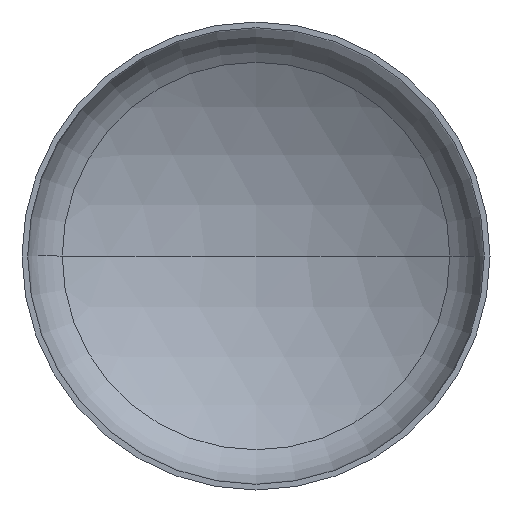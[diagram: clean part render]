
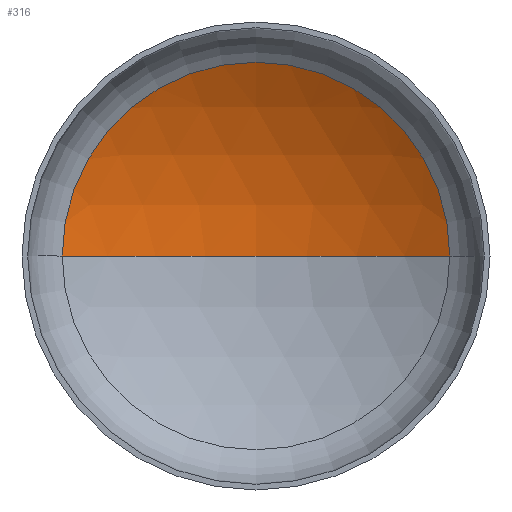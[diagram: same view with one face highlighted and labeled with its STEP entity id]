
A CAD part, front view. The second image highlights one B-rep face of the part: STEP entity #316.
In plain terms, the highlighted spherical face has radius 1440 mm.
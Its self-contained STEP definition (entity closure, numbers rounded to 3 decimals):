
#16 = DIRECTION ( 'NONE',  ( 0., 0., -1. ) ) ;
#23 = CARTESIAN_POINT ( 'NONE',  ( 0., -926.803, 0. ) ) ;
#24 = AXIS2_PLACEMENT_3D ( 'NONE', #213, #214, #237 ) ;
#28 = AXIS2_PLACEMENT_3D ( 'NONE', #23, #16, #83 ) ;
#29 = AXIS2_PLACEMENT_3D ( 'NONE', #197, #199, #272 ) ;
#55 = VERTEX_POINT ( 'NONE', #305 ) ;
#68 = ORIENTED_EDGE ( 'NONE', *, *, #190, .T. ) ;
#80 = ORIENTED_EDGE ( 'NONE', *, *, #173, .F. ) ;
#83 = DIRECTION ( 'NONE',  ( -1., 0., 0. ) ) ;
#105 = VERTEX_POINT ( 'NONE', #193 ) ;
#132 = CARTESIAN_POINT ( 'NONE',  ( 0., -926.803, 0. ) ) ;
#157 = EDGE_LOOP ( 'NONE', ( #80, #68, #221 ) ) ;
#167 = DIRECTION ( 'NONE',  ( -1., 0., 0. ) ) ;
#173 = EDGE_CURVE ( 'NONE', #231, #105, #392, .T. ) ;
#190 = EDGE_CURVE ( 'NONE', #231, #55, #255, .T. ) ;
#193 = CARTESIAN_POINT ( 'NONE',  ( -745.339, 305.297, 0. ) ) ;
#197 = CARTESIAN_POINT ( 'NONE',  ( 0., -926.803, 0. ) ) ;
#199 = DIRECTION ( 'NONE',  ( 0., 0., 1. ) ) ;
#207 = EDGE_CURVE ( 'NONE', #55, #105, #306, .T. ) ;
#213 = CARTESIAN_POINT ( 'NONE',  ( 0., 305.297, 0. ) ) ;
#214 = DIRECTION ( 'NONE',  ( 0., -1., 0. ) ) ;
#221 = ORIENTED_EDGE ( 'NONE', *, *, #207, .T. ) ;
#231 = VERTEX_POINT ( 'NONE', #289 ) ;
#237 = DIRECTION ( 'NONE',  ( 1., 0., 0. ) ) ;
#255 = CIRCLE ( 'NONE', #28, 1440. ) ;
#272 = DIRECTION ( 'NONE',  ( 1., 0., 0. ) ) ;
#285 = FACE_OUTER_BOUND ( 'NONE', #157, .T. ) ;
#289 = CARTESIAN_POINT ( 'NONE',  ( 0., 513.197, 0. ) ) ;
#305 = CARTESIAN_POINT ( 'NONE',  ( 745.339, 305.297, 0. ) ) ;
#306 = CIRCLE ( 'NONE', #24, 745.339 ) ;
#315 = DIRECTION ( 'NONE',  ( 0., 0., -1. ) ) ;
#316 = ADVANCED_FACE ( 'NONE', ( #285 ), #350, .F. ) ;
#317 = AXIS2_PLACEMENT_3D ( 'NONE', #132, #315, #167 ) ;
#350 = SPHERICAL_SURFACE ( 'NONE', #317, 1440. ) ;
#392 = CIRCLE ( 'NONE', #29, 1440. ) ;
